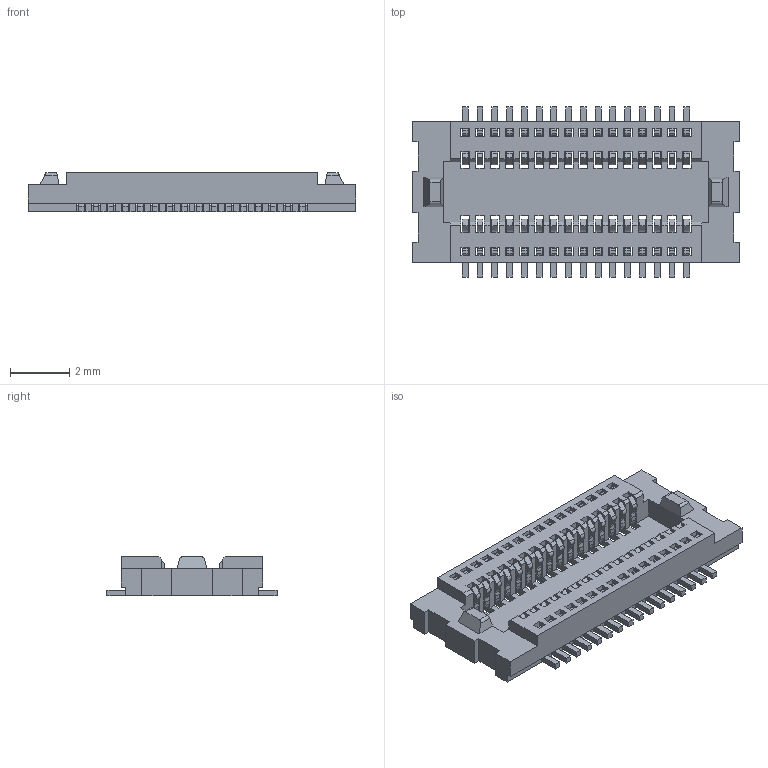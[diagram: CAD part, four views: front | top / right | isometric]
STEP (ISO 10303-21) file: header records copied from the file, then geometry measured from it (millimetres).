
FILE_DESCRIPTION(('CATIA V5 STEP Exchange'),'2;1');
FILE_NAME('F:\黄富鸿\板对板\0.5 单槽\无柱\母座\H1.35\HC-PBB05-1-32-F-H1.35-G1-R-06 (BTB0.5 单槽 母座 立贴 编带)-HCTL.stp','2026-01-23T08:28:07+00:00',('none'),('none'),'CATIA Version 5 Release 20 GA (IN-10)','CATIA V5 STEP AP203','none');
FILE_SCHEMA(('CONFIG_CONTROL_DESIGN'));
Length unit declared in the file: millimetre
Products named in the file (1): Part2
Bounding box: 11.1 x 5.76 x 1.35 mm (x, y, z)
Volume: 39.8 mm3; surface area: 348.1 mm2
Topology: 33 solids, 33 shells, 1462 faces, 4472 edges, 2980 vertices
Faces by surface type: plane 1010, cylinder 452
Entity records: 42720 total; most frequent: ORIENTED_EDGE 8944, CARTESIAN_POINT 7697, DIRECTION 4796, EDGE_CURVE 4472, VECTOR 3568, LINE 3568, VERTEX_POINT 2980, EDGE_LOOP 1494
